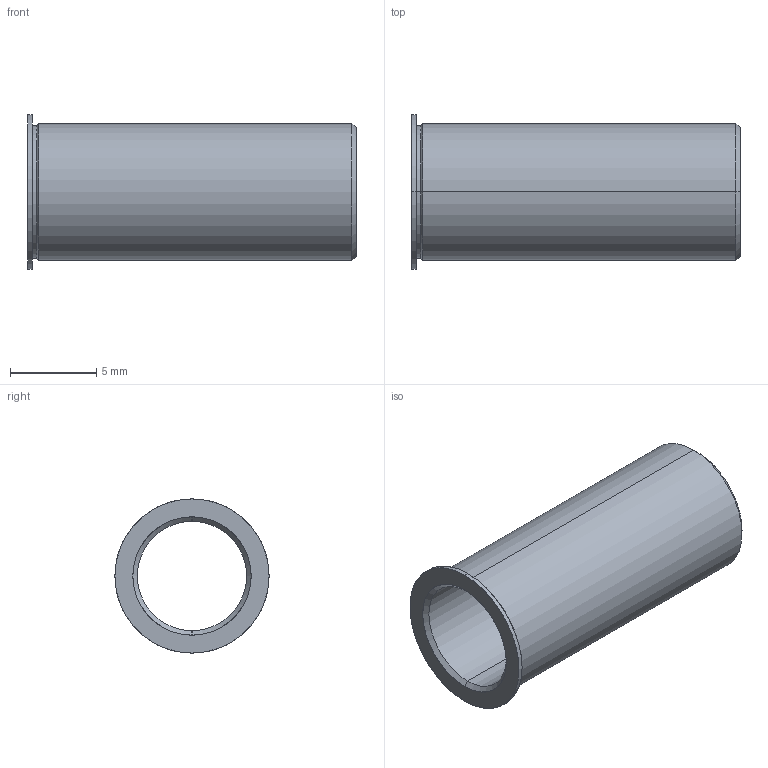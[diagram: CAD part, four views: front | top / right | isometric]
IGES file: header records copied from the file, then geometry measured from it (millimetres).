
Start section: SolidWorks IGES file using analytic representation for surfaces
Global section: file name: C:\Users\workpc\Desktop\KMA Solidworks\TS250-100 Series\TB250-100-750.IGS; native system: SolidWorks 2013; preprocessor: SolidWorks 2013; author: workpc; date: 130213.101542; units: inch
Bounding box: 19.05 x 8.94 x 8.94 mm (x, y, z)
Surface area: 912.7 mm2 (no closed solid volume)
Topology: 0 solids, 0 shells, 19 faces, 256 edges, 256 vertices
Faces by surface type: revolution 16, bspline 3
